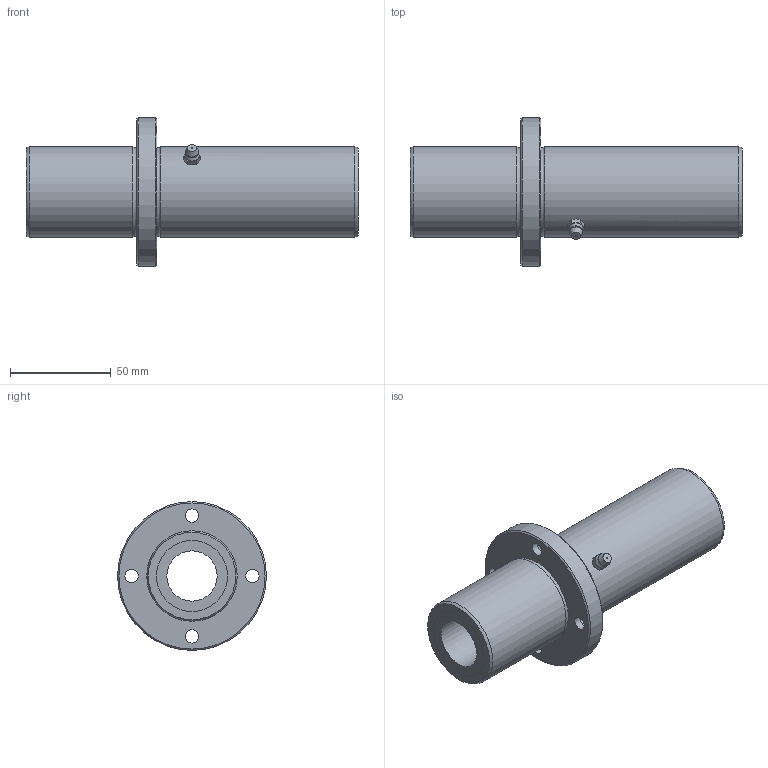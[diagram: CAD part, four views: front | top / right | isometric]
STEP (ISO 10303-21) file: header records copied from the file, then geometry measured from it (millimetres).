
FILE_DESCRIPTION((''),'2;1');
FILE_NAME('D:\製品 (図面)\カタログ用3D\リニアベアリング関連\STEP形式\LFLC\LFLC25.stp','2010-06-04T09:06:29',('Tsuchiya'),(''),'Autodesk Inventor 10','Autodesk Inventor 10','');
FILE_SCHEMA(('AUTOMOTIVE_DESIGN { 1 0 10303 214 1 1 1 1 }'));
Length unit declared in the file: millimetre
Products named in the file (1): LFLC25
Bounding box: 165 x 74 x 74 mm (x, y, z)
Volume: 205298 mm3; surface area: 45705.2 mm2
Topology: 1 solids, 1 shells, 59 faces, 117 edges, 70 vertices
Faces by surface type: plane 16, bspline 16, cone 15, cylinder 8, sphere 2, torus 2
Full cylindrical faces by diameter (mm): 25 x1, 35.3 x2, 45 x2, 74 x1
Entity records: 1803 total; most frequent: CARTESIAN_POINT 730, DIRECTION 210, ORIENTED_EDGE 184, EDGE_LOOP 104, AXIS2_PLACEMENT_3D 100, EDGE_CURVE 92, VERTEX_POINT 68, FACE_OUTER_BOUND 59
